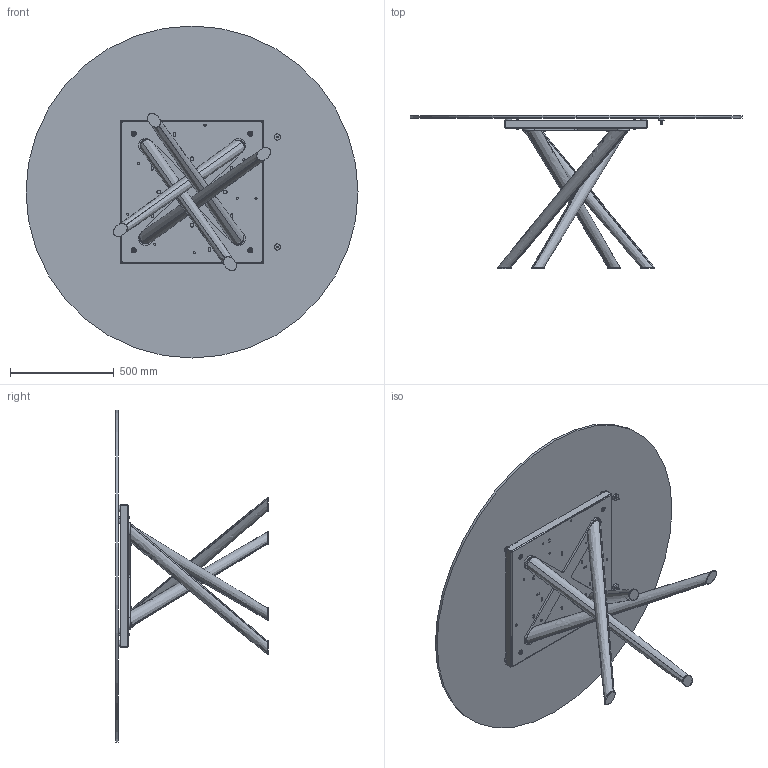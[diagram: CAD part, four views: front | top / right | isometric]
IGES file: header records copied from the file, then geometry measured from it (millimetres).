
Start section: SolidWorks IGES file using analytic representation for surfaces
Global section: file name: Y:\eforma\TECNICO\SOLIDWORKS\E-FORMA\1-TAVOLI\BALY\02 parts\BA08G.IGS; native system: SolidWorks 2022; preprocessor: SolidWorks 2022; author: eforma.tech; date: 240808.083930; units: millimetre
Bounding box: 1600 x 737 x 1600 mm (x, y, z)
Volume: 28859531.4 mm3; surface area: 6917152.2 mm2
Topology: 43 solids, 43 shells, 945 faces, 2281 edges, 1414 vertices
Faces by surface type: revolution 539, plane 398, bspline 8
